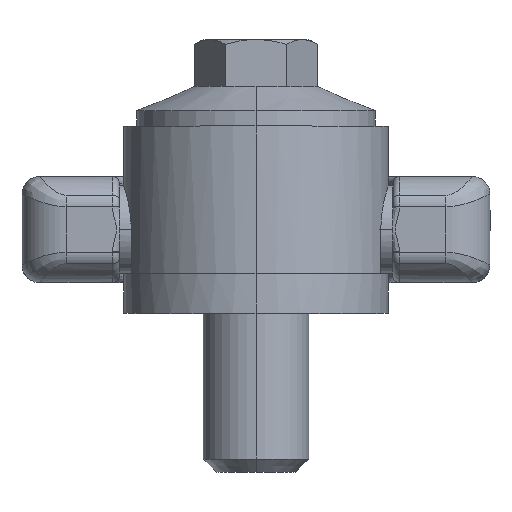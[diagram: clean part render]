
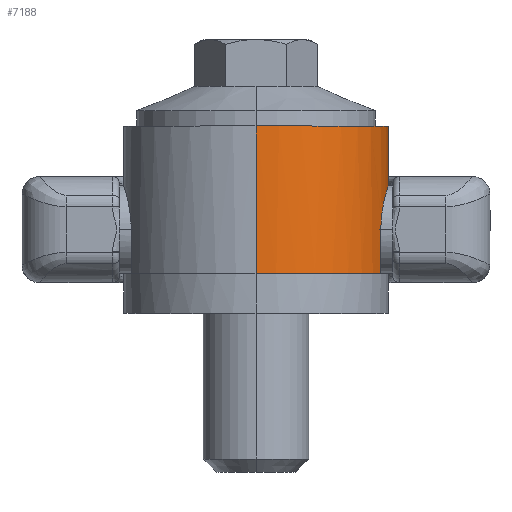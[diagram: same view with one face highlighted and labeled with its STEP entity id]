
A CAD part, top view. The second image highlights one B-rep face of the part: STEP entity #7188.
In plain terms, the highlighted cylindrical face has radius 30 mm (diameter 60 mm), a partial arc.
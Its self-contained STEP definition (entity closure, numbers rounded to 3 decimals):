
#3831 = EDGE_CURVE ( 'NONE', #7043, #7039, #3898, .T. ) ;
#3895 = DIRECTION ( 'NONE',  ( 0., -1., 0. ) ) ;
#3896 = VECTOR ( 'NONE', #3895, 1000. ) ;
#3897 = CARTESIAN_POINT ( 'NONE',  ( 0., 62., -30. ) ) ;
#3898 = LINE ( 'NONE', #3897, #3896 ) ;
#4136 = CARTESIAN_POINT ( 'NONE',  ( 30., 28.999, 0.668 ) ) ;
#4137 = CARTESIAN_POINT ( 'NONE',  ( 29.978, 28.934, 1.32 ) ) ;
#4138 = CARTESIAN_POINT ( 'NONE',  ( 29.914, 28.74, 2.29 ) ) ;
#4139 = CARTESIAN_POINT ( 'NONE',  ( 29.888, 28.658, 2.613 ) ) ;
#4140 = CARTESIAN_POINT ( 'NONE',  ( 29.826, 28.466, 3.241 ) ) ;
#4141 = CARTESIAN_POINT ( 'NONE',  ( 29.791, 28.355, 3.548 ) ) ;
#4142 = CARTESIAN_POINT ( 'NONE',  ( 29.674, 27.979, 4.449 ) ) ;
#4143 = CARTESIAN_POINT ( 'NONE',  ( 29.582, 27.672, 5.023 ) ) ;
#4144 = CARTESIAN_POINT ( 'NONE',  ( 29.376, 26.94, 6.114 ) ) ;
#4145 = CARTESIAN_POINT ( 'NONE',  ( 29.266, 26.528, 6.614 ) ) ;
#4146 = CARTESIAN_POINT ( 'NONE',  ( 29.099, 25.841, 7.301 ) ) ;
#4147 = CARTESIAN_POINT ( 'NONE',  ( 29.043, 25.601, 7.519 ) ) ;
#4148 = CARTESIAN_POINT ( 'NONE',  ( 28.933, 25.097, 7.933 ) ) ;
#4149 = CARTESIAN_POINT ( 'NONE',  ( 28.878, 24.833, 8.129 ) ) ;
#4150 = CARTESIAN_POINT ( 'NONE',  ( 28.722, 24.021, 8.673 ) ) ;
#4151 = CARTESIAN_POINT ( 'NONE',  ( 28.626, 23.449, 8.98 ) ) ;
#4152 = CARTESIAN_POINT ( 'NONE',  ( 28.504, 22.543, 9.357 ) ) ;
#4153 = CARTESIAN_POINT ( 'NONE',  ( 28.466, 22.231, 9.469 ) ) ;
#4154 = CARTESIAN_POINT ( 'NONE',  ( 28.402, 21.6, 9.662 ) ) ;
#4155 = CARTESIAN_POINT ( 'NONE',  ( 28.374, 21.282, 9.742 ) ) ;
#4156 = CARTESIAN_POINT ( 'NONE',  ( 28.308, 20.319, 9.934 ) ) ;
#4157 = CARTESIAN_POINT ( 'NONE',  ( 28.284, 19.666, 10. ) ) ;
#4158 = CARTESIAN_POINT ( 'NONE',  ( 28.284, 19., 10. ) ) ;
#4160 = B_SPLINE_CURVE_WITH_KNOTS ( 'NONE', 3,
 ( #4158, #4157, #4156, #4155, #4154, #4153, #4152, #4151, #4150, #4149, #4148, #4147, #4146, #4145, #4144, #4143, #4142, #4141, #4140, #4139, #4138, #4137, #4136, #4211, #4210, #4209, #4208, #4207, #4206, #4205, #4204, #4203, #4202, #4201, #4200, #4199, #4198, #4197, #4196, #4195, #4194, #4193, #4192, #4191, #4190, #4189 ),
 .UNSPECIFIED., .F., .F.,
 ( 4, 2, 2, 2, 2, 2, 2, 2, 2, 2, 2, 2, 2, 2, 2, 2, 2, 2, 2, 2, 2, 2, 4 ),
 ( 0., 0.002, 0.003, 0.004, 0.006, 0.007, 0.008, 0.01, 0.012, 0.013, 0.014, 0.016, 0.018, 0.02, 0.021, 0.022, 0.023, 0.024, 0.026, 0.028, 0.03, 0.03, 0.031 ),
 .UNSPECIFIED. ) ;
#4161 = CARTESIAN_POINT ( 'NONE',  ( 28.284, 19., 10. ) ) ;
#4162 = DIRECTION ( 'NONE',  ( 0., 1., 0. ) ) ;
#4163 = VECTOR ( 'NONE', #4162, 1000. ) ;
#4164 = CARTESIAN_POINT ( 'NONE',  ( 28.284, 62., 10. ) ) ;
#4165 = LINE ( 'NONE', #4164, #4163 ) ;
#4189 = CARTESIAN_POINT ( 'NONE',  ( 28.284, 19., -10. ) ) ;
#4190 = CARTESIAN_POINT ( 'NONE',  ( 28.284, 19.333, -10. ) ) ;
#4191 = CARTESIAN_POINT ( 'NONE',  ( 28.29, 19.664, -9.983 ) ) ;
#4192 = CARTESIAN_POINT ( 'NONE',  ( 28.313, 20.324, -9.917 ) ) ;
#4193 = CARTESIAN_POINT ( 'NONE',  ( 28.331, 20.654, -9.868 ) ) ;
#4194 = CARTESIAN_POINT ( 'NONE',  ( 28.398, 21.624, -9.672 ) ) ;
#4195 = CARTESIAN_POINT ( 'NONE',  ( 28.464, 22.247, -9.48 ) ) ;
#4196 = CARTESIAN_POINT ( 'NONE',  ( 28.626, 23.45, -8.979 ) ) ;
#4197 = CARTESIAN_POINT ( 'NONE',  ( 28.724, 24.034, -8.665 ) ) ;
#4198 = CARTESIAN_POINT ( 'NONE',  ( 28.933, 25.113, -7.94 ) ) ;
#4199 = CARTESIAN_POINT ( 'NONE',  ( 29.044, 25.613, -7.53 ) ) ;
#4200 = CARTESIAN_POINT ( 'NONE',  ( 29.211, 26.303, -6.839 ) ) ;
#4201 = CARTESIAN_POINT ( 'NONE',  ( 29.267, 26.524, -6.595 ) ) ;
#4202 = CARTESIAN_POINT ( 'NONE',  ( 29.376, 26.937, -6.091 ) ) ;
#4203 = CARTESIAN_POINT ( 'NONE',  ( 29.429, 27.131, -5.83 ) ) ;
#4204 = CARTESIAN_POINT ( 'NONE',  ( 29.531, 27.492, -5.291 ) ) ;
#4205 = CARTESIAN_POINT ( 'NONE',  ( 29.58, 27.659, -5.013 ) ) ;
#4206 = CARTESIAN_POINT ( 'NONE',  ( 29.671, 27.967, -4.438 ) ) ;
#4207 = CARTESIAN_POINT ( 'NONE',  ( 29.715, 28.109, -4.14 ) ) ;
#4208 = CARTESIAN_POINT ( 'NONE',  ( 29.832, 28.488, -3.227 ) ) ;
#4209 = CARTESIAN_POINT ( 'NONE',  ( 29.894, 28.678, -2.601 ) ) ;
#4210 = CARTESIAN_POINT ( 'NONE',  ( 29.978, 28.935, -1.315 ) ) ;
#4211 = CARTESIAN_POINT ( 'NONE',  ( 30., 29.001, -0.647 ) ) ;
#4598 = CARTESIAN_POINT ( 'NONE',  ( 0., 9., -30. ) ) ;
#4599 = CARTESIAN_POINT ( 'NONE',  ( 0., 9., 30. ) ) ;
#4605 = CARTESIAN_POINT ( 'NONE',  ( 0., 42.4, 30. ) ) ;
#4659 = CARTESIAN_POINT ( 'NONE',  ( 0., 42.4, -30. ) ) ;
#4898 = CARTESIAN_POINT ( 'NONE',  ( 28.284, 9., 10. ) ) ;
#4958 = DIRECTION ( 'NONE',  ( 0., 0., -1. ) ) ;
#4959 = DIRECTION ( 'NONE',  ( 0., -1., 0. ) ) ;
#4961 = CIRCLE ( 'NONE', #4963, 30. ) ;
#4962 = CARTESIAN_POINT ( 'NONE',  ( 0., 9., 0. ) ) ;
#4963 = AXIS2_PLACEMENT_3D ( 'NONE', #4962, #4959, #4958 ) ;
#5008 = DIRECTION ( 'NONE',  ( 0., -1., 0. ) ) ;
#5009 = VECTOR ( 'NONE', #5008, 1000. ) ;
#5010 = CARTESIAN_POINT ( 'NONE',  ( 0., 62., 30. ) ) ;
#5011 = LINE ( 'NONE', #5010, #5009 ) ;
#5158 = DIRECTION ( 'NONE',  ( 0., 0., 1. ) ) ;
#5159 = DIRECTION ( 'NONE',  ( 0., 1., 0. ) ) ;
#5160 = CARTESIAN_POINT ( 'NONE',  ( 0., 42.4, 0. ) ) ;
#5161 = AXIS2_PLACEMENT_3D ( 'NONE', #5160, #5159, #5158 ) ;
#5162 = CIRCLE ( 'NONE', #5161, 30. ) ;
#5167 = DIRECTION ( 'NONE',  ( 0., 0., -1. ) ) ;
#5168 = DIRECTION ( 'NONE',  ( 0., -1., 0. ) ) ;
#5169 = AXIS2_PLACEMENT_3D ( 'NONE', #5171, #5168, #5167 ) ;
#5171 = CARTESIAN_POINT ( 'NONE',  ( 0., 62., 0. ) ) ;
#5172 = CYLINDRICAL_SURFACE ( 'NONE', #5169, 30. ) ;
#5173 = FACE_OUTER_BOUND ( 'NONE', #7189, .T. ) ;
#5261 = CARTESIAN_POINT ( 'NONE',  ( 28.284, 9., -10. ) ) ;
#5278 = DIRECTION ( 'NONE',  ( 0., 0., -1. ) ) ;
#5279 = DIRECTION ( 'NONE',  ( 0., -1., 0. ) ) ;
#5280 = CARTESIAN_POINT ( 'NONE',  ( 0., 9., 0. ) ) ;
#5281 = AXIS2_PLACEMENT_3D ( 'NONE', #5280, #5279, #5278 ) ;
#5282 = CIRCLE ( 'NONE', #5281, 30. ) ;
#5321 = CARTESIAN_POINT ( 'NONE',  ( 28.284, 19., -10. ) ) ;
#5325 = DIRECTION ( 'NONE',  ( 0., -1., 0. ) ) ;
#5326 = VECTOR ( 'NONE', #5325, 1000. ) ;
#5327 = CARTESIAN_POINT ( 'NONE',  ( 28.284, 62., -10. ) ) ;
#5328 = LINE ( 'NONE', #5327, #5326 ) ;
#6741 = ORIENTED_EDGE ( 'NONE', *, *, #6742, .T. ) ;
#6742 = EDGE_CURVE ( 'NONE', #7146, #6744, #4165, .T. ) ;
#6743 = EDGE_CURVE ( 'NONE', #6744, #7255, #4160, .T. ) ;
#6744 = VERTEX_POINT ( 'NONE', #4161 ) ;
#6745 = ORIENTED_EDGE ( 'NONE', *, *, #6743, .T. ) ;
#7021 = ORIENTED_EDGE ( 'NONE', *, *, #7156, .F. ) ;
#7035 = VERTEX_POINT ( 'NONE', #4605 ) ;
#7038 = VERTEX_POINT ( 'NONE', #4599 ) ;
#7039 = VERTEX_POINT ( 'NONE', #4598 ) ;
#7042 = ORIENTED_EDGE ( 'NONE', *, *, #7164, .T. ) ;
#7043 = VERTEX_POINT ( 'NONE', #4659 ) ;
#7146 = VERTEX_POINT ( 'NONE', #4898 ) ;
#7156 = EDGE_CURVE ( 'NONE', #7146, #7038, #4961, .T. ) ;
#7164 = EDGE_CURVE ( 'NONE', #7035, #7038, #5011, .T. ) ;
#7186 = ORIENTED_EDGE ( 'NONE', *, *, #7191, .F. ) ;
#7188 = ADVANCED_FACE ( 'NONE', ( #5173 ), #5172, .T. ) ;
#7189 = EDGE_LOOP ( 'NONE', ( #7186, #7042, #7021, #6741, #6745, #7256, #7232, #7211 ) ) ;
#7191 = EDGE_CURVE ( 'NONE', #7035, #7043, #5162, .T. ) ;
#7211 = ORIENTED_EDGE ( 'NONE', *, *, #3831, .F. ) ;
#7230 = VERTEX_POINT ( 'NONE', #5261 ) ;
#7231 = EDGE_CURVE ( 'NONE', #7039, #7230, #5282, .T. ) ;
#7232 = ORIENTED_EDGE ( 'NONE', *, *, #7231, .F. ) ;
#7255 = VERTEX_POINT ( 'NONE', #5321 ) ;
#7256 = ORIENTED_EDGE ( 'NONE', *, *, #7261, .T. ) ;
#7261 = EDGE_CURVE ( 'NONE', #7255, #7230, #5328, .T. ) ;
